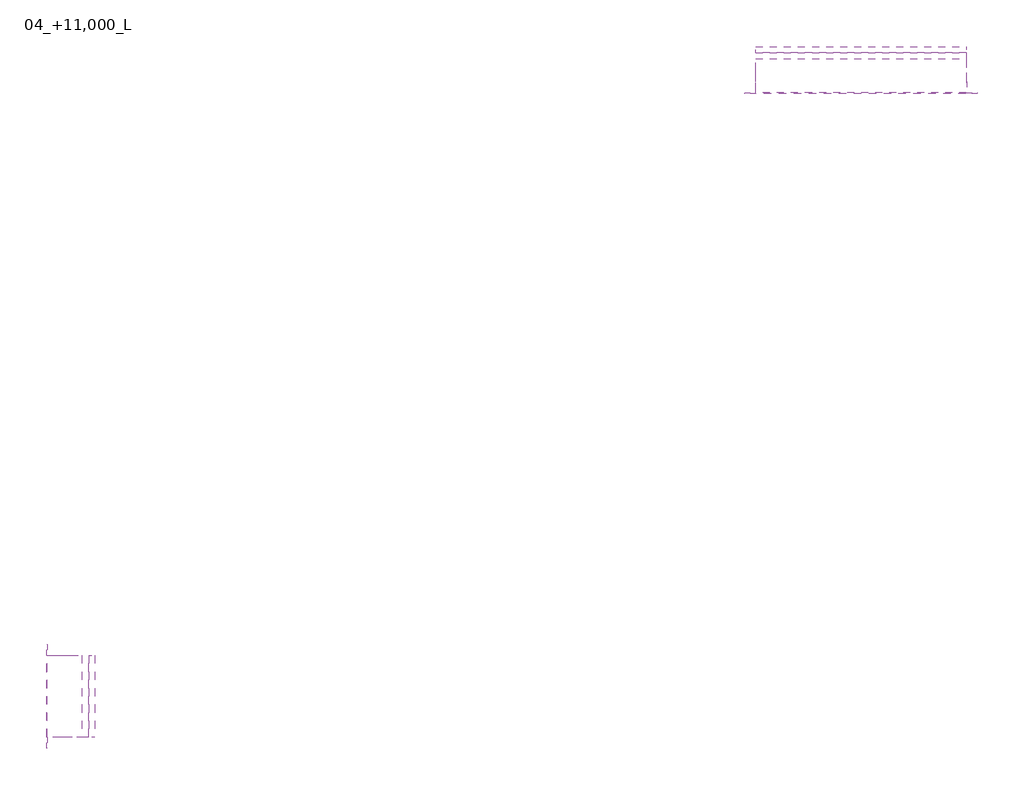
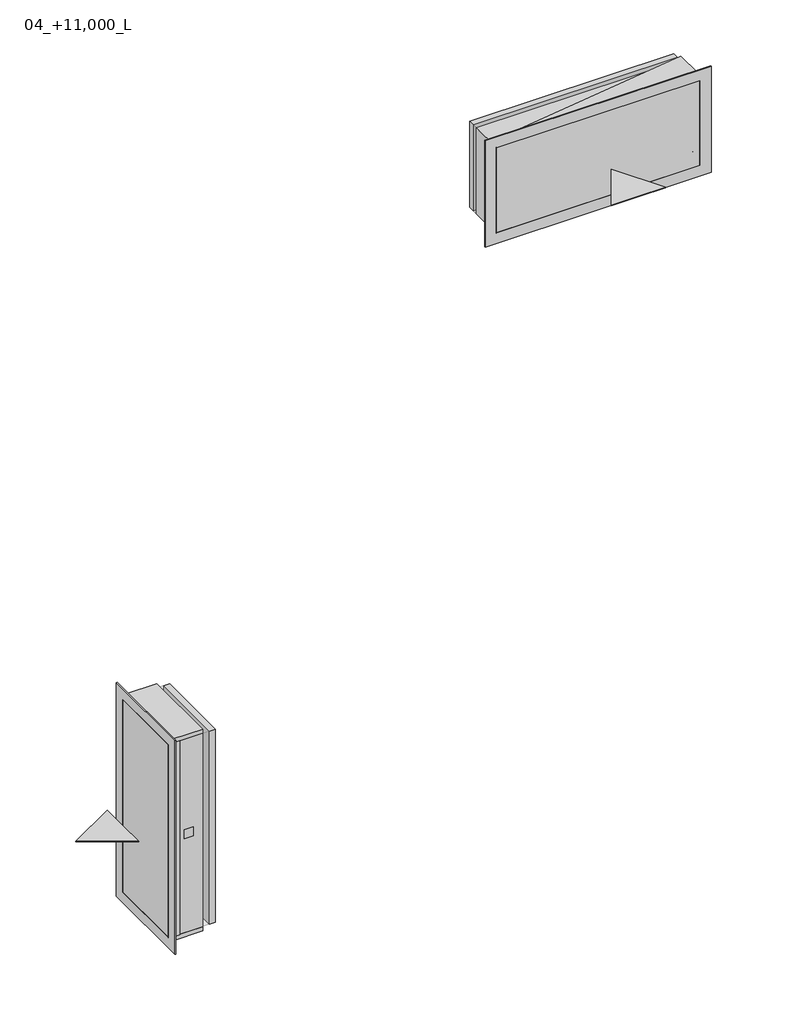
# One storey: 2 air terminals, 2 duct fittings, 2 duct segments.
"""IFC4 building model written with IfcOpenShell, lengths in millimetres."""

from ifc_helpers import new_model, si_unit, frame, origin, place, context, project, spatial, polyline, outline, extrude, transform, mapped, element, save
from components import air_terminal_900x500_583f1a94, air_terminal_900x500_b4c928ea, duct_fitting_5a3266c1, duct_fitting_1df0ebde

model = new_model("IFC4")

# Units and contexts
model_context = context("Model", 3, world=origin())
ifc_project = project(units=[si_unit("LENGTHUNIT", "METRE", prefix="MILLI")], contexts=[model_context])

# Site, building, storey
site = spatial("IfcSite", under=ifc_project)
building = spatial("IfcBuilding", under=site)
storey = spatial("IfcBuildingStorey", under=building, Name="04_+11,000_L", Elevation=11000.0)

# Air terminals
placement = place(None, origin())
air_terminal_900x500_shape = air_terminal_900x500_583f1a94(model_context)
element("IfcAirTerminal", 1, ObjectType="Клапан ДУ прямоугольный стеновой : 900x500", at=placement, inside=storey, context=model_context, shape_type="MappedRepresentation", body=[
    mapped(air_terminal_900x500_shape, transform((174063.3990224, 116519.3672029, 13750.0), x_axis=(0.0, 1.0, 0.0), y_axis=(-1.0, 0.0, 0.0), z_axis=(0.0, 0.0, 1.0))),
])
air_terminal_900x500_2_shape = air_terminal_900x500_b4c928ea(model_context)
element("IfcAirTerminal", 2, ObjectType="Клапан ОЗК прямоугольный стеновой НЗ : 900x500", at=placement, inside=storey, context=model_context, shape_type="MappedRepresentation", body=[
    mapped(air_terminal_900x500_2_shape, transform((170654.6756135, 113864.9184343, 13450.0), x_axis=(1.0, 0.0, 0.0), y_axis=(0.0, 1.0, 0.0), z_axis=(0.0, 0.0, 1.0))),
])

# Duct fittings
duct_fitting_shape = duct_fitting_5a3266c1(model_context)
element("IfcDuctFitting", 3, ObjectType="ADSK_ВрезкаВоздуховода_Прямоугольная : Стандарт", at=placement, inside=storey, context=model_context, shape_type="MappedRepresentation", body=[
    mapped(duct_fitting_shape, transform((170780.252649, 113864.9184343, 13450.0), x_axis=(-1.0, 0.0, 0.0), y_axis=(0.0, 0.0, 1.0), z_axis=(0.0, 1.0, 0.0))),
])
duct_fitting_2_shape = duct_fitting_1df0ebde(model_context)
element("IfcDuctFitting", 4, ObjectType="ADSK_ВрезкаВоздуховода_Прямоугольная : Стандарт", at=placement, inside=storey, context=model_context, shape_type="MappedRepresentation", body=[
    mapped(duct_fitting_2_shape, transform((174063.3990224, 116639.3672029, 13750.0), x_axis=(0.0, -1.0, 0.0), y_axis=(0.0, 0.0, 1.0), z_axis=(-1.0, 0.0, 0.0))),
])

# Duct segments
element("IfcDuctSegment", 5, ObjectType="ADSK_Оцинковка_Врезки_ГОСТ 14918-80", at=placement, inside=storey, context=model_context, shape_type="SweptSolid", body=[
    extrude(outline(polyline([(170760.252649, 114039.9184343), (170760.252649, 113689.9184343), (170583.1253243, 113689.9184343), (170583.1253243, 114039.9184343), (170760.252649, 114039.9184343)])), frame((0.0, 0.0, 13000.0), z_axis=(0.0, 0.0, 1.0), x_axis=(1.0, 0.0, 0.0)), (0.0, 0.0, 1.0), 900.0),
])
element("IfcDuctSegment", 6, ObjectType="ADSK_Оцинковка_Врезки_ГОСТ 14918-80", at=placement, inside=storey, context=model_context, shape_type="SweptSolid", body=[
    extrude(outline(polyline([(173613.3990224, 116619.3672029), (174513.3990224, 116619.3672029), (174513.3990224, 116447.8169137), (173613.3990224, 116447.8169137), (173613.3990224, 116619.3672029)])), frame((0.0, 0.0, 13550.0), z_axis=(0.0, 0.0, 1.0), x_axis=(1.0, 0.0, 0.0)), (0.0, 0.0, 1.0), 400.0),
])

save(model, "model.ifc")
